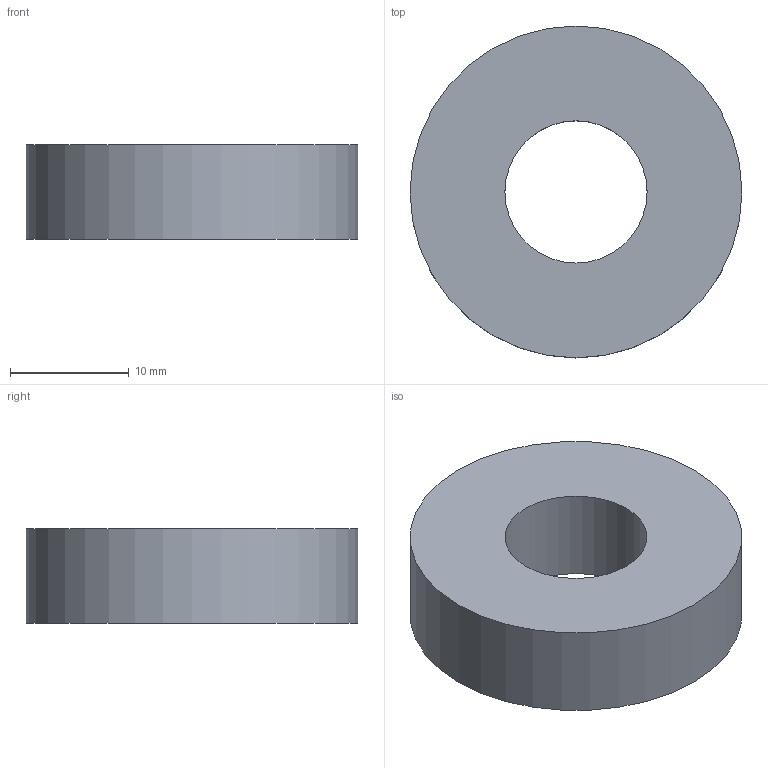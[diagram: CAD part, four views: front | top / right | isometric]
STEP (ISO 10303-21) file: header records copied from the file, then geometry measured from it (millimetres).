
FILE_DESCRIPTION(/* description */ ('STEP AP242','CAx-IF Rec.Pracs.---Representation and Presentation of Product Manufacturing Information (PMI)---4.0---2014-10-13','CAx-IF Rec.Pracs.---3D Tessellated Geometry---0.4---2014-09-14','2;1','CAx-IF Rec.Pracs.---User Defined Attributes---1.5---2016-08-15'),/* implementation_level */ '2;1');
FILE_NAME(/* name */ 'Full Assembly - Part 1 (18)',/* time_stamp */ '2025-11-03T04:00:12Z',/* author */ (''),/* organization */ (''),/* preprocessor_version */ 'ST-DEVELOPER v20',/* originating_system */ 'ONSHAPE BY PTC INC, 1.206',/* authorisation */ ' ');
FILE_SCHEMA (('AP242_MANAGED_MODEL_BASED_3D_ENGINEERING_MIM_LF { 1 0 10303 442 1 1 4 }'));
Length unit declared in the file: metre
Products named in the file (1): Part 1
Bounding box: 28 x 28 x 8 mm (x, y, z)
Volume: 4021.2 mm3; surface area: 2010.6 mm2
Topology: 1 solids, 1 shells, 4 faces, 6 edges, 4 vertices
Faces by surface type: cylinder 2, plane 2
Full cylindrical faces by diameter (mm): 12 x1, 28 x1
Entity records: 110 total; most frequent: DIRECTION 18, CARTESIAN_POINT 13, AXIS2_PLACEMENT_3D 9, ORIENTED_EDGE 8, EDGE_LOOP 8, FACE_BOUND 8, EDGE_CURVE 4, VERTEX_POINT 4
